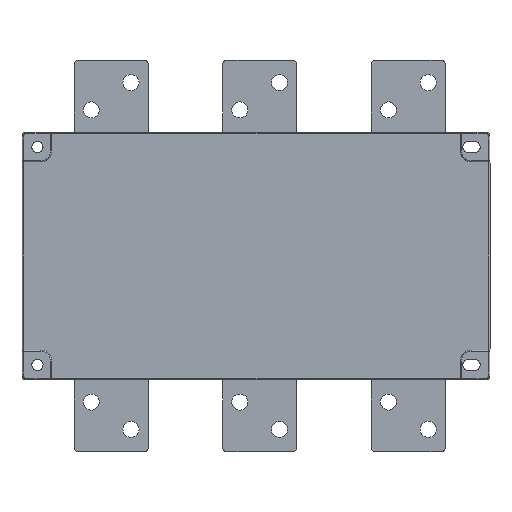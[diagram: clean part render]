
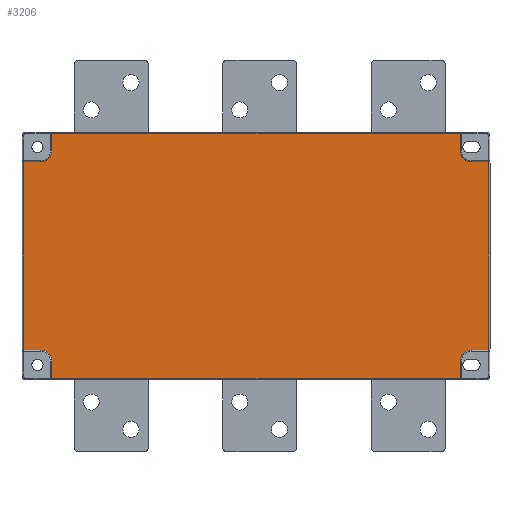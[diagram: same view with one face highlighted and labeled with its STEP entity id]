
A CAD part, front view. The second image highlights one B-rep face of the part: STEP entity #3206.
In plain terms, the highlighted planar face has unit normal (0, -1, 0).
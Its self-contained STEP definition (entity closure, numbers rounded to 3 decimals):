
#1=DIRECTION('',(0.,0.,1.));
#2=VECTOR('',#1,14.);
#3=CARTESIAN_POINT('',(-165.,0.,-99.));
#4=LINE('',#3,#2);
#5=CARTESIAN_POINT('',(-174.,0.,-85.));
#6=DIRECTION('',(0.,-1.,0.));
#7=DIRECTION('',(1.,0.,0.));
#8=AXIS2_PLACEMENT_3D('',#5,#6,#7);
#10=DIRECTION('',(1.,0.,0.));
#11=VECTOR('',#10,14.);
#12=CARTESIAN_POINT('',(-188.,0.,76.));
#13=LINE('',#12,#11);
#14=CARTESIAN_POINT('',(-174.,0.,85.));
#15=DIRECTION('',(0.,-1.,0.));
#16=DIRECTION('',(0.,0.,-1.));
#17=AXIS2_PLACEMENT_3D('',#14,#15,#16);
#19=DIRECTION('',(0.,0.,-1.));
#20=VECTOR('',#19,14.);
#21=CARTESIAN_POINT('',(165.,0.,99.));
#22=LINE('',#21,#20);
#23=CARTESIAN_POINT('',(174.,0.,85.));
#24=DIRECTION('',(0.,-1.,0.));
#25=DIRECTION('',(-1.,0.,0.));
#26=AXIS2_PLACEMENT_3D('',#23,#24,#25);
#28=DIRECTION('',(-1.,0.,0.));
#29=VECTOR('',#28,14.);
#30=CARTESIAN_POINT('',(188.,0.,-76.));
#31=LINE('',#30,#29);
#32=CARTESIAN_POINT('',(174.,0.,-85.));
#33=DIRECTION('',(0.,-1.,0.));
#34=DIRECTION('',(0.,0.,1.));
#35=AXIS2_PLACEMENT_3D('',#32,#33,#34);
#49=DIRECTION('',(1.,0.,0.));
#50=VECTOR('',#49,330.);
#51=CARTESIAN_POINT('',(-165.,0.,-99.));
#52=LINE('',#51,#50);
#1417=DIRECTION('',(-1.,0.,0.));
#1418=VECTOR('',#1417,14.);
#1419=CARTESIAN_POINT('',(188.,0.,76.));
#1420=LINE('',#1419,#1418);
#1441=DIRECTION('',(0.,0.,1.));
#1442=VECTOR('',#1441,152.);
#1443=CARTESIAN_POINT('',(188.,0.,-76.));
#1444=LINE('',#1443,#1442);
#1507=DIRECTION('',(0.,0.,1.));
#1508=VECTOR('',#1507,14.);
#1509=CARTESIAN_POINT('',(165.,0.,-99.));
#1510=LINE('',#1509,#1508);
#1868=DIRECTION('',(-1.,0.,0.));
#1869=VECTOR('',#1868,330.);
#1870=CARTESIAN_POINT('',(165.,0.,99.));
#1871=LINE('',#1870,#1869);
#1888=DIRECTION('',(0.,0.,-1.));
#1889=VECTOR('',#1888,14.);
#1890=CARTESIAN_POINT('',(-165.,0.,99.));
#1891=LINE('',#1890,#1889);
#1966=DIRECTION('',(0.,0.,-1.));
#1967=VECTOR('',#1966,152.);
#1968=CARTESIAN_POINT('',(-188.,0.,76.));
#1969=LINE('',#1968,#1967);
#1986=DIRECTION('',(1.,0.,0.));
#1987=VECTOR('',#1986,14.);
#1988=CARTESIAN_POINT('',(-188.,0.,-76.));
#1989=LINE('',#1988,#1987);
#2465=CARTESIAN_POINT('',(-165.,0.,-99.));
#2466=CARTESIAN_POINT('',(165.,0.,-99.));
#2467=VERTEX_POINT('',#2465);
#2468=VERTEX_POINT('',#2466);
#2469=CARTESIAN_POINT('',(-165.,0.,-85.));
#2470=VERTEX_POINT('',#2469);
#2471=CARTESIAN_POINT('',(-174.,0.,-76.));
#2472=VERTEX_POINT('',#2471);
#2473=CARTESIAN_POINT('',(-188.,0.,-76.));
#2474=VERTEX_POINT('',#2473);
#2475=CARTESIAN_POINT('',(-188.,0.,76.));
#2476=VERTEX_POINT('',#2475);
#2477=CARTESIAN_POINT('',(-174.,0.,76.));
#2478=VERTEX_POINT('',#2477);
#2479=CARTESIAN_POINT('',(-165.,0.,85.));
#2480=VERTEX_POINT('',#2479);
#2481=CARTESIAN_POINT('',(-165.,0.,99.));
#2482=VERTEX_POINT('',#2481);
#2483=CARTESIAN_POINT('',(165.,0.,99.));
#2484=VERTEX_POINT('',#2483);
#2485=CARTESIAN_POINT('',(165.,0.,85.));
#2486=VERTEX_POINT('',#2485);
#2487=CARTESIAN_POINT('',(174.,0.,76.));
#2488=VERTEX_POINT('',#2487);
#2489=CARTESIAN_POINT('',(188.,0.,76.));
#2490=VERTEX_POINT('',#2489);
#2491=CARTESIAN_POINT('',(188.,0.,-76.));
#2492=VERTEX_POINT('',#2491);
#2493=CARTESIAN_POINT('',(174.,0.,-76.));
#2494=VERTEX_POINT('',#2493);
#2495=CARTESIAN_POINT('',(165.,0.,-85.));
#2496=VERTEX_POINT('',#2495);
#3167=CARTESIAN_POINT('',(0.,0.,0.));
#3168=DIRECTION('',(0.,1.,0.));
#3169=DIRECTION('',(1.,0.,0.));
#3170=AXIS2_PLACEMENT_3D('',#3167,#3168,#3169);
#3171=PLANE('',#3170);
#3173=ORIENTED_EDGE('',*,*,#3172,.F.);
#3175=ORIENTED_EDGE('',*,*,#3174,.T.);
#3177=ORIENTED_EDGE('',*,*,#3176,.T.);
#3179=ORIENTED_EDGE('',*,*,#3178,.F.);
#3181=ORIENTED_EDGE('',*,*,#3180,.F.);
#3183=ORIENTED_EDGE('',*,*,#3182,.T.);
#3185=ORIENTED_EDGE('',*,*,#3184,.T.);
#3187=ORIENTED_EDGE('',*,*,#3186,.F.);
#3189=ORIENTED_EDGE('',*,*,#3188,.F.);
#3191=ORIENTED_EDGE('',*,*,#3190,.T.);
#3193=ORIENTED_EDGE('',*,*,#3192,.T.);
#3195=ORIENTED_EDGE('',*,*,#3194,.F.);
#3197=ORIENTED_EDGE('',*,*,#3196,.F.);
#3199=ORIENTED_EDGE('',*,*,#3198,.T.);
#3201=ORIENTED_EDGE('',*,*,#3200,.T.);
#3203=ORIENTED_EDGE('',*,*,#3202,.F.);
#3204=EDGE_LOOP('',(#3173,#3175,#3177,#3179,#3181,#3183,#3185,#3187,#3189,#3191,
#3193,#3195,#3197,#3199,#3201,#3203));
#3205=FACE_OUTER_BOUND('',#3204,.F.);
#9=CIRCLE('',#8,9.);
#18=CIRCLE('',#17,9.);
#27=CIRCLE('',#26,9.);
#36=CIRCLE('',#35,9.);
#3172=EDGE_CURVE('',#2467,#2468,#52,.T.);
#3174=EDGE_CURVE('',#2467,#2470,#4,.T.);
#3176=EDGE_CURVE('',#2470,#2472,#9,.T.);
#3178=EDGE_CURVE('',#2474,#2472,#1989,.T.);
#3180=EDGE_CURVE('',#2476,#2474,#1969,.T.);
#3182=EDGE_CURVE('',#2476,#2478,#13,.T.);
#3184=EDGE_CURVE('',#2478,#2480,#18,.T.);
#3186=EDGE_CURVE('',#2482,#2480,#1891,.T.);
#3188=EDGE_CURVE('',#2484,#2482,#1871,.T.);
#3190=EDGE_CURVE('',#2484,#2486,#22,.T.);
#3192=EDGE_CURVE('',#2486,#2488,#27,.T.);
#3194=EDGE_CURVE('',#2490,#2488,#1420,.T.);
#3196=EDGE_CURVE('',#2492,#2490,#1444,.T.);
#3198=EDGE_CURVE('',#2492,#2494,#31,.T.);
#3200=EDGE_CURVE('',#2494,#2496,#36,.T.);
#3202=EDGE_CURVE('',#2468,#2496,#1510,.T.);
#3206=ADVANCED_FACE('',(#3205),#3171,.F.);
